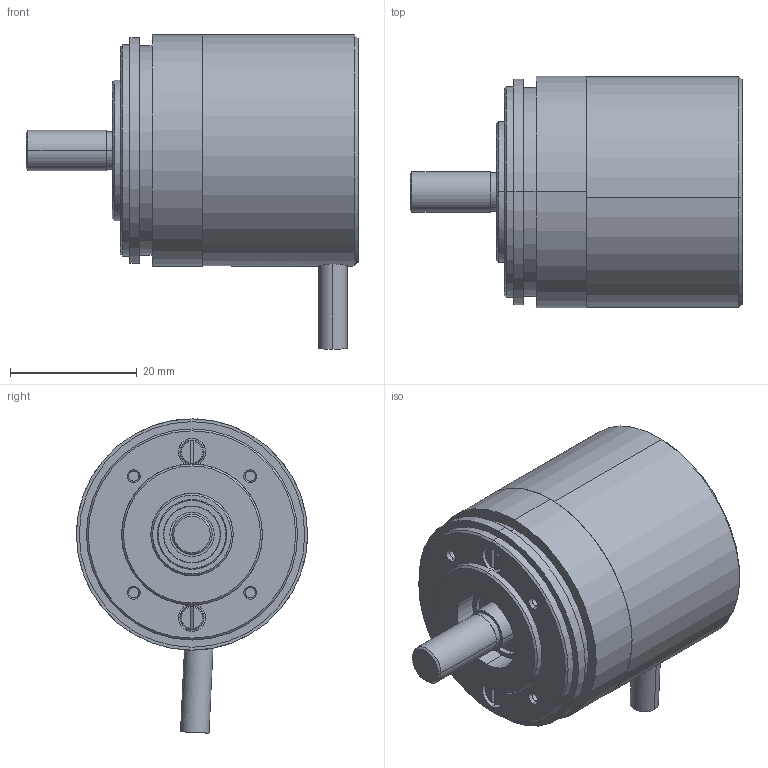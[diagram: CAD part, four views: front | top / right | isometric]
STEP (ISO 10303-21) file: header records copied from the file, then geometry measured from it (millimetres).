
FILE_DESCRIPTION (( 'STEP AP214' ), '1' );
FILE_NAME ('ﾋﾈﾐ-137ﾁ.STEP', '2017-05-23T08:43:25', ( '' ), ( '' ), 'SwSTEP 2.0', 'SolidWorks 2013', '' );
FILE_SCHEMA (( 'AUTOMOTIVE_DESIGN' ));
Length unit declared in the file: millimetre
Products named in the file (1): ﾋﾈﾐ-137ﾁ
Bounding box: 52.4 x 36.5 x 49.61 mm (x, y, z)
Surface area: 8691 mm2 (no closed solid volume)
Topology: 0 solids, 10 shells, 90 faces, 255 edges, 174 vertices
Faces by surface type: cylinder 38, cone 22, plane 22, torus 6, bspline 2
Entity records: 5761 total; most frequent: CARTESIAN_POINT 2384, DIRECTION 547, ORIENTED_EDGE 422, EDGE_CURVE 255, AXIS2_PLACEMENT_3D 239, VERTEX_POINT 174, CIRCLE 150, EDGE_LOOP 105
